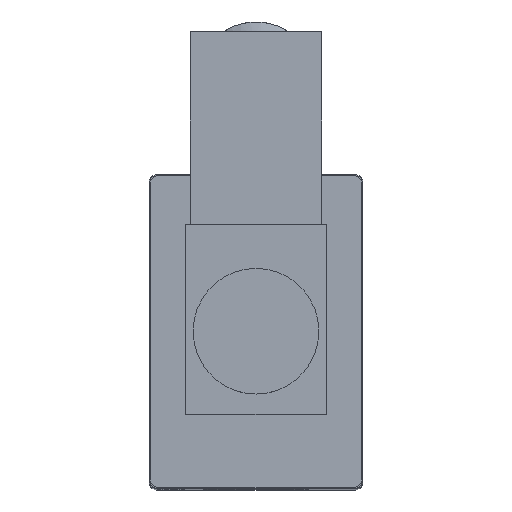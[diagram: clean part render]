
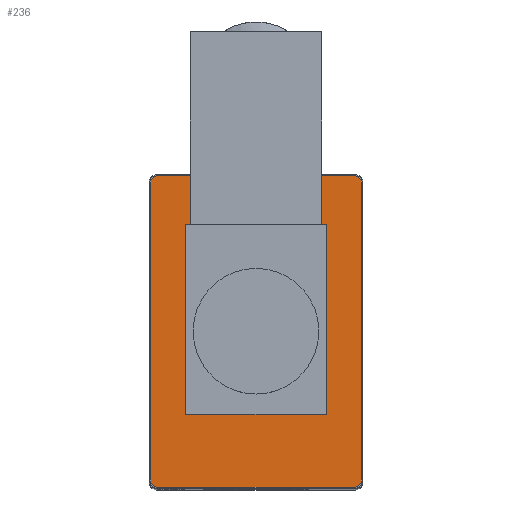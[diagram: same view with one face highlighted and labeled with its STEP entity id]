
A CAD part, top view. The second image highlights one B-rep face of the part: STEP entity #236.
In plain terms, the highlighted planar face has unit normal (0, 0, 1).
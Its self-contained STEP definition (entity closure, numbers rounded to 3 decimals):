
#236 = ADVANCED_FACE( '', ( #591, #592 ), #593, .T. );
#591 = FACE_BOUND( '', #1110, .T. );
#592 = FACE_OUTER_BOUND( '', #1111, .T. );
#593 = PLANE( '', #1112 );
#1110 = EDGE_LOOP( '', ( #1766, #1767, #1768, #1769 ) );
#1111 = EDGE_LOOP( '', ( #1770, #1771, #1772, #1773, #1774, #1775, #1776, #1777 ) );
#1112 = AXIS2_PLACEMENT_3D( '', #1778, #1779, #1780 );
#1766 = ORIENTED_EDGE( '', *, *, #2867, .F. );
#1767 = ORIENTED_EDGE( '', *, *, #2868, .T. );
#1768 = ORIENTED_EDGE( '', *, *, #2869, .T. );
#1769 = ORIENTED_EDGE( '', *, *, #2870, .T. );
#1770 = ORIENTED_EDGE( '', *, *, #2871, .T. );
#1771 = ORIENTED_EDGE( '', *, *, #2872, .T. );
#1772 = ORIENTED_EDGE( '', *, *, #2873, .T. );
#1773 = ORIENTED_EDGE( '', *, *, #2874, .T. );
#1774 = ORIENTED_EDGE( '', *, *, #2875, .T. );
#1775 = ORIENTED_EDGE( '', *, *, #2845, .T. );
#1776 = ORIENTED_EDGE( '', *, *, #2747, .T. );
#1777 = ORIENTED_EDGE( '', *, *, #2876, .T. );
#1778 = CARTESIAN_POINT( '', ( -15.6, 23.6, 28.2 ) );
#1779 = DIRECTION( '', ( 0., 0., 1. ) );
#1780 = DIRECTION( '', ( 1., 0., 0. ) );
#2747 = EDGE_CURVE( '', #3222, #3220, #3223, .T. );
#2845 = EDGE_CURVE( '', #3391, #3222, #3392, .T. );
#2867 = EDGE_CURVE( '', #3427, #3428, #3429, .T. );
#2868 = EDGE_CURVE( '', #3427, #3430, #3431, .T. );
#2869 = EDGE_CURVE( '', #3430, #3432, #3433, .T. );
#2870 = EDGE_CURVE( '', #3432, #3428, #3434, .T. );
#2871 = EDGE_CURVE( '', #3435, #3436, #3437, .T. );
#2872 = EDGE_CURVE( '', #3436, #3438, #3439, .T. );
#2873 = EDGE_CURVE( '', #3438, #3440, #3441, .T. );
#2874 = EDGE_CURVE( '', #3440, #3442, #3443, .T. );
#2875 = EDGE_CURVE( '', #3442, #3391, #3444, .T. );
#2876 = EDGE_CURVE( '', #3220, #3435, #3445, .T. );
#3220 = VERTEX_POINT( '', #3928 );
#3222 = VERTEX_POINT( '', #3931 );
#3223 = CIRCLE( '', #3932, 1.2 );
#3391 = VERTEX_POINT( '', #4154 );
#3392 = LINE( '', #4155, #4156 );
#3427 = VERTEX_POINT( '', #4199 );
#3428 = VERTEX_POINT( '', #4200 );
#3429 = LINE( '', #4201, #4202 );
#3430 = VERTEX_POINT( '', #4203 );
#3431 = LINE( '', #4204, #4205 );
#3432 = VERTEX_POINT( '', #4206 );
#3433 = LINE( '', #4207, #4208 );
#3434 = LINE( '', #4209, #4210 );
#3435 = VERTEX_POINT( '', #4211 );
#3436 = VERTEX_POINT( '', #4212 );
#3437 = CIRCLE( '', #4213, 1.2 );
#3438 = VERTEX_POINT( '', #4214 );
#3439 = LINE( '', #4215, #4216 );
#3440 = VERTEX_POINT( '', #4217 );
#3441 = CIRCLE( '', #4218, 1.2 );
#3442 = VERTEX_POINT( '', #4219 );
#3443 = LINE( '', #4220, #4221 );
#3444 = CIRCLE( '', #4222, 1.2 );
#3445 = LINE( '', #4223, #4224 );
#3928 = CARTESIAN_POINT( '', ( 15.6, 24.8, 28.2 ) );
#3931 = CARTESIAN_POINT( '', ( 16.8, 23.6, 28.2 ) );
#3932 = AXIS2_PLACEMENT_3D( '', #4785, #4786, #4787 );
#4154 = CARTESIAN_POINT( '', ( 16.8, -23.6, 28.2 ) );
#4155 = CARTESIAN_POINT( '', ( 16.8, -23.6, 28.2 ) );
#4156 = VECTOR( '', #4905, 1000. );
#4199 = CARTESIAN_POINT( '', ( 11.15, -13.2, 28.2 ) );
#4200 = CARTESIAN_POINT( '', ( 11.15, 17., 28.2 ) );
#4201 = CARTESIAN_POINT( '', ( 11.15, 23.6, 28.2 ) );
#4202 = VECTOR( '', #4938, 1000. );
#4203 = CARTESIAN_POINT( '', ( -11.15, -13.2, 28.2 ) );
#4204 = CARTESIAN_POINT( '', ( -15.6, -13.2, 28.2 ) );
#4205 = VECTOR( '', #4939, 1000. );
#4206 = CARTESIAN_POINT( '', ( -11.15, 17., 28.2 ) );
#4207 = CARTESIAN_POINT( '', ( -11.15, 23.6, 28.2 ) );
#4208 = VECTOR( '', #4940, 1000. );
#4209 = CARTESIAN_POINT( '', ( -15.6, 17., 28.2 ) );
#4210 = VECTOR( '', #4941, 1000. );
#4211 = CARTESIAN_POINT( '', ( -15.6, 24.8, 28.2 ) );
#4212 = CARTESIAN_POINT( '', ( -16.8, 23.6, 28.2 ) );
#4213 = AXIS2_PLACEMENT_3D( '', #4942, #4943, #4944 );
#4214 = CARTESIAN_POINT( '', ( -16.8, -23.6, 28.2 ) );
#4215 = CARTESIAN_POINT( '', ( -16.8, 23.6, 28.2 ) );
#4216 = VECTOR( '', #4945, 1000. );
#4217 = CARTESIAN_POINT( '', ( -15.6, -24.8, 28.2 ) );
#4218 = AXIS2_PLACEMENT_3D( '', #4946, #4947, #4948 );
#4219 = CARTESIAN_POINT( '', ( 15.6, -24.8, 28.2 ) );
#4220 = CARTESIAN_POINT( '', ( -15.6, -24.8, 28.2 ) );
#4221 = VECTOR( '', #4949, 1000. );
#4222 = AXIS2_PLACEMENT_3D( '', #4950, #4951, #4952 );
#4223 = CARTESIAN_POINT( '', ( 15.6, 24.8, 28.2 ) );
#4224 = VECTOR( '', #4953, 1000. );
#4785 = CARTESIAN_POINT( '', ( 15.6, 23.6, 28.2 ) );
#4786 = DIRECTION( '', ( 0., 0., 1. ) );
#4787 = DIRECTION( '', ( 1., 0., 0. ) );
#4905 = DIRECTION( '', ( 0., 1., 0. ) );
#4938 = DIRECTION( '', ( 0., 1., 0. ) );
#4939 = DIRECTION( '', ( -1., 0., 0. ) );
#4940 = DIRECTION( '', ( 0., 1., 0. ) );
#4941 = DIRECTION( '', ( 1., 0., 0. ) );
#4942 = CARTESIAN_POINT( '', ( -15.6, 23.6, 28.2 ) );
#4943 = DIRECTION( '', ( 0., 0., 1. ) );
#4944 = DIRECTION( '', ( 1., 0., 0. ) );
#4945 = DIRECTION( '', ( 0., -1., 0. ) );
#4946 = CARTESIAN_POINT( '', ( -15.6, -23.6, 28.2 ) );
#4947 = DIRECTION( '', ( 0., 0., 1. ) );
#4948 = DIRECTION( '', ( 1., 0., 0. ) );
#4949 = DIRECTION( '', ( 1., 0., 0. ) );
#4950 = CARTESIAN_POINT( '', ( 15.6, -23.6, 28.2 ) );
#4951 = DIRECTION( '', ( 0., 0., 1. ) );
#4952 = DIRECTION( '', ( 1., 0., 0. ) );
#4953 = DIRECTION( '', ( -1., 0., 0. ) );
